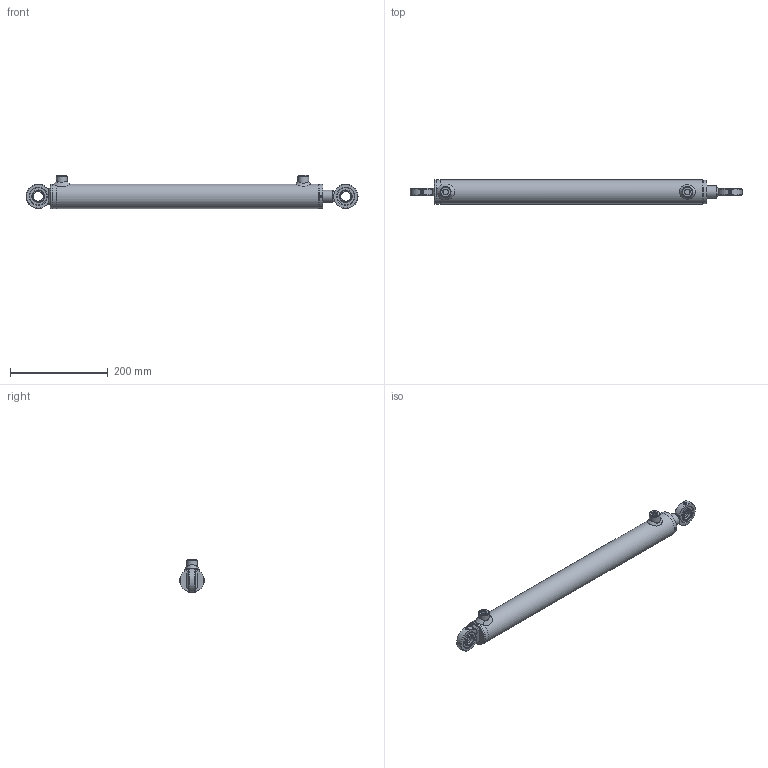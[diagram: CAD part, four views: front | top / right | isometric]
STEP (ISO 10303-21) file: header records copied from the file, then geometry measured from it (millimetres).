
FILE_DESCRIPTION( ( 'Unknown' ), '1' );
FILE_NAME( 'E:/LIBRERIA_3d/CILINDRI/HMC/HMC1250450.stp', 'Unknown', ( 'Unknown' ), ( 'Unknown' ), 'PSStep 17.0.49', 'Unknown', ' ' );
FILE_SCHEMA( ( 'AUTOMOTIVE_DESIGN { 1 0 10303 214 1 1 1 1 }' ) );
Length unit declared in the file: millimetre
Products named in the file (27): STL1500450-oa6; Saldatura d'angolo 1-oa4; FTM1500450-oa5; CBSC220400; CG05004025; CT00040015; HM01250450; Saldatura con preparazione 1-oa2; Saldatura d'angolo 1-oa3; CF00040050; CDA0001415; CBS0400000; APG0400000; SBL2510450; CAGEG05003520; CAGE050035; CGE0200000; Assem1; Saldatura d'angolo 1-oa0; Saldatura d'angolo 2-oa1
Assembly tree (20 placements, depth 4):
  Saldatura d'angolo 1-oa4
  Saldatura d'angolo 1-oa4
  Saldatura d'angolo 1-oa3
  Saldatura d'angolo 1-oa3
  Assem1
    CAGEG05003520  x2
      CAGE050035
      CGE0200000
    HM01250450
      Saldatura con preparazione 1-oa2
      Saldatura con preparazione 1-oa2
      CF00040050
      CDA0001415
      CBS0400000
      APG0400000  x2
      SBL2510450
      CT00040015
        CT00040015
      CG05004025
        CG05004025
      STL1500450-oa6
        FTM1500450-oa5
        CBSC220400
Bounding box: 680 x 50 x 68 mm (x, y, z)
Volume: 785987.4 mm3; surface area: 270730.7 mm2
Topology: 24 solids, 24 shells, 358 faces, 755 edges, 454 vertices
Faces by surface type: plane 106, bspline 94, cylinder 78, cone 44, torus 32, sphere 4
Full cylindrical faces by diameter (mm): 2 x4, 4 x4, 4.25 x1, 5 x2, 7 x2, 11.445 x2, 12 x2, 13.1 x2, 14 x2, 15 x3, 19.5 x1, 20 x6, 22 x3, 25 x4, 27 x1, 28 x1, 30 x1, 33 x3, 33.6 x1, 35 x7, 35.4 x2, 38.5 x2, 39.9 x1, 40 x1, 40.3 x1, 40.5 x1, 40.6 x1, 41 x1, 42 x3, 42.5 x1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
Entity records: 17313 total; most frequent: CARTESIAN_POINT 9263, DIRECTION 976, ORIENTED_EDGE 960, EDGE_LOOP 514, EDGE_CURVE 480, AXIS2_PLACEMENT_3D 444, FACE_OUTER_BOUND 421, VERTEX_POINT 353
